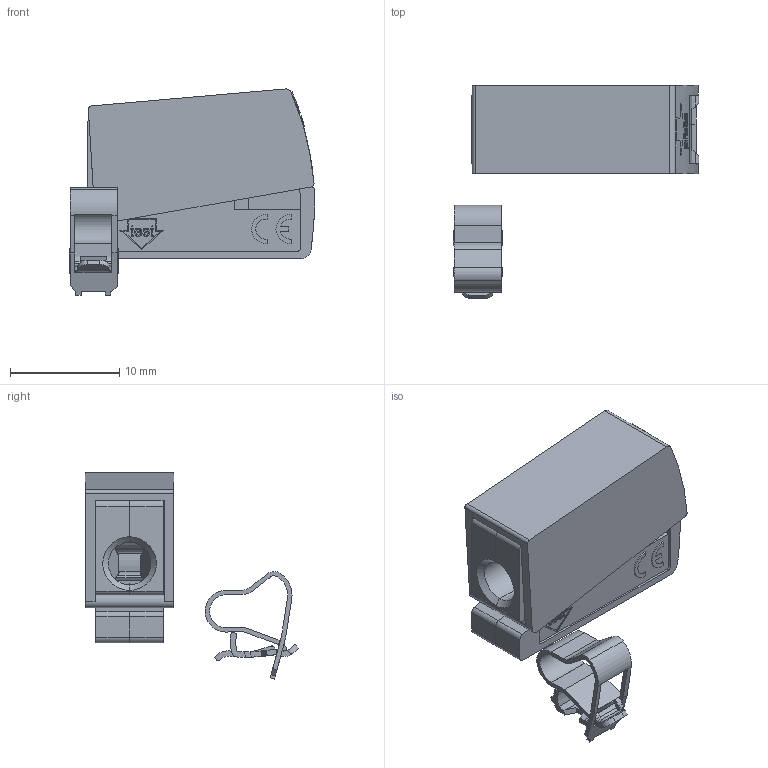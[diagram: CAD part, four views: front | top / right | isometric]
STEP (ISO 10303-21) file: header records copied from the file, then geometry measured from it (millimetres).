
FILE_DESCRIPTION (( 'STEP AP214' ), '1' );
FILE_NAME ('OLC11.STEP', '2026-03-23T08:51:27', ( '' ), ( '' ), 'SwSTEP 2.0', 'SolidWorks 2025', '' );
FILE_SCHEMA (( 'AUTOMOTIVE_DESIGN' ));
Length unit declared in the file: millimetre
Products named in the file (1): OLC11
Bounding box: 22.47 x 19.52 x 18.85 mm (x, y, z)
Volume: 1364.6 mm3; surface area: 3537.2 mm2
Topology: 7 solids, 7 shells, 1196 faces, 3321 edges, 2199 vertices
Faces by surface type: plane 692, bspline 272, cylinder 222, cone 10
Entity records: 48926 total; most frequent: CARTESIAN_POINT 20657, ORIENTED_EDGE 6642, DIRECTION 4614, EDGE_CURVE 3321, VERTEX_POINT 2199, LINE 1776, VECTOR 1776, AXIS2_PLACEMENT_3D 1419
